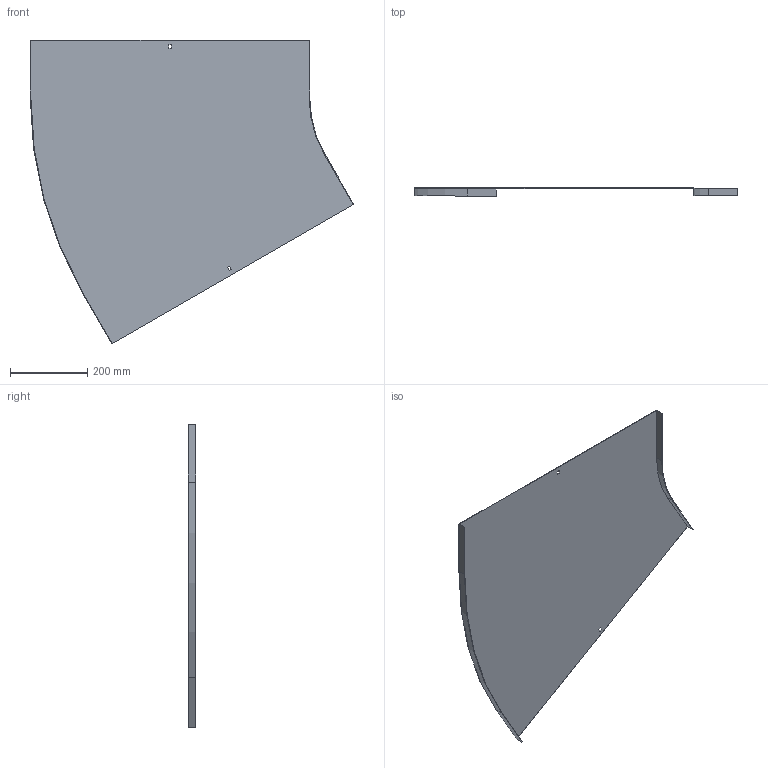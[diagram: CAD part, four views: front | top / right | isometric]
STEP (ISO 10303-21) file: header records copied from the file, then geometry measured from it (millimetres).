
FILE_DESCRIPTION (( 'STEP AP214' ), '1' );
FILE_NAME ('12N3P700.step', '2025-02-21T13:34:05', ( '' ), ( '' ), 'SwSTEP 2.0', 'SolidWorks 2023', '' );
FILE_SCHEMA (( 'AUTOMOTIVE_DESIGN' ));
Length unit declared in the file: millimetre
Products named in the file (1): 12N3P700
Bounding box: 836.65 x 20 x 785.65 mm (x, y, z)
Volume: 729811.2 mm3; surface area: 977375.6 mm2
Topology: 1 solids, 1 shells, 26 faces, 72 edges, 48 vertices
Faces by surface type: plane 22, cylinder 4
Entity records: 855 total; most frequent: CARTESIAN_POINT 147, ORIENTED_EDGE 144, DIRECTION 134, EDGE_CURVE 72, VECTOR 64, LINE 64, VERTEX_POINT 48, AXIS2_PLACEMENT_3D 35
